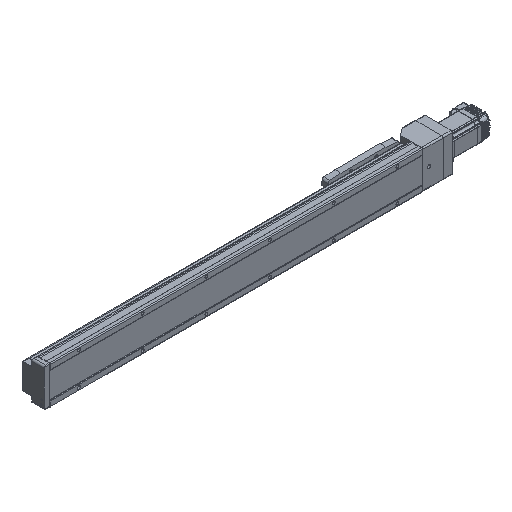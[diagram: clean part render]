
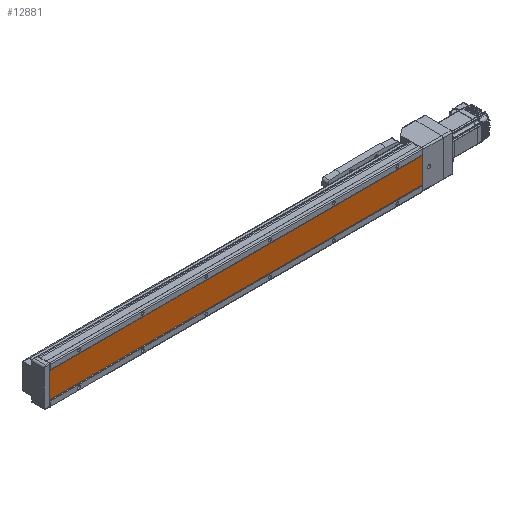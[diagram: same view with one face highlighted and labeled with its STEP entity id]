
A CAD part, isometric view. The second image highlights one B-rep face of the part: STEP entity #12881.
In plain terms, the highlighted planar face has unit normal (0, -1, 0).
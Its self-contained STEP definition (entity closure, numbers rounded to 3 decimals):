
#1328 = CARTESIAN_POINT ( 'NONE',  ( -29.843, 1., 878. ) ) ;
#3388 = DIRECTION ( 'NONE',  ( 1., 0., 0. ) ) ;
#4676 = LINE ( 'NONE', #27115, #52500 ) ;
#4850 = AXIS2_PLACEMENT_3D ( 'NONE', #12896, #34532, #38628 ) ;
#6699 = VECTOR ( 'NONE', #3388, 1000. ) ;
#11433 = DIRECTION ( 'NONE',  ( 1., 0., 0. ) ) ;
#11771 = EDGE_CURVE ( 'NONE', #13697, #44025, #26639, .T. ) ;
#12881 = ADVANCED_FACE ( 'NONE', ( #35113 ), #52852, .F. ) ;
#12896 = CARTESIAN_POINT ( 'NONE',  ( -29.843, 1., 1378. ) ) ;
#13605 = VERTEX_POINT ( 'NONE', #16785 ) ;
#13697 = VERTEX_POINT ( 'NONE', #1328 ) ;
#16785 = CARTESIAN_POINT ( 'NONE',  ( 29.843, 1., 878. ) ) ;
#17404 = ORIENTED_EDGE ( 'NONE', *, *, #22010, .F. ) ;
#22010 = EDGE_CURVE ( 'NONE', #13697, #13605, #46748, .T. ) ;
#22257 = CARTESIAN_POINT ( 'NONE',  ( -29.843, 1., 1378. ) ) ;
#22447 = DIRECTION ( 'NONE',  ( 0., 0., -1. ) ) ;
#22625 = VECTOR ( 'NONE', #11433, 1000. ) ;
#23679 = ORIENTED_EDGE ( 'NONE', *, *, #34246, .F. ) ;
#24073 = VERTEX_POINT ( 'NONE', #31402 ) ;
#25041 = EDGE_CURVE ( 'NONE', #44025, #24073, #34318, .T. ) ;
#26639 = LINE ( 'NONE', #22257, #47007 ) ;
#27115 = CARTESIAN_POINT ( 'NONE',  ( 29.843, 1., 1378. ) ) ;
#31402 = CARTESIAN_POINT ( 'NONE',  ( 29.843, 1., 0. ) ) ;
#34048 = CARTESIAN_POINT ( 'NONE',  ( -29.843, 1., 0. ) ) ;
#34246 = EDGE_CURVE ( 'NONE', #13605, #24073, #4676, .T. ) ;
#34318 = LINE ( 'NONE', #46580, #6699 ) ;
#34532 = DIRECTION ( 'NONE',  ( 0., 1., 0. ) ) ;
#34935 = ORIENTED_EDGE ( 'NONE', *, *, #25041, .T. ) ;
#35113 = FACE_OUTER_BOUND ( 'NONE', #36423, .T. ) ;
#36423 = EDGE_LOOP ( 'NONE', ( #17404, #41157, #34935, #23679 ) ) ;
#38628 = DIRECTION ( 'NONE',  ( 0., 0., 1. ) ) ;
#40073 = DIRECTION ( 'NONE',  ( 0., 0., -1. ) ) ;
#41157 = ORIENTED_EDGE ( 'NONE', *, *, #11771, .T. ) ;
#44025 = VERTEX_POINT ( 'NONE', #34048 ) ;
#46580 = CARTESIAN_POINT ( 'NONE',  ( -29.843, 1., 0. ) ) ;
#46748 = LINE ( 'NONE', #47305, #22625 ) ;
#47007 = VECTOR ( 'NONE', #40073, 1000. ) ;
#47305 = CARTESIAN_POINT ( 'NONE',  ( -29.843, 1., 878. ) ) ;
#52500 = VECTOR ( 'NONE', #22447, 1000. ) ;
#52852 = PLANE ( 'NONE',  #4850 ) ;
